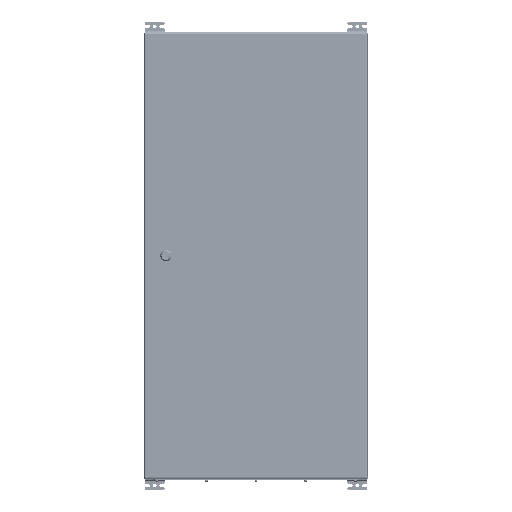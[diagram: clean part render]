
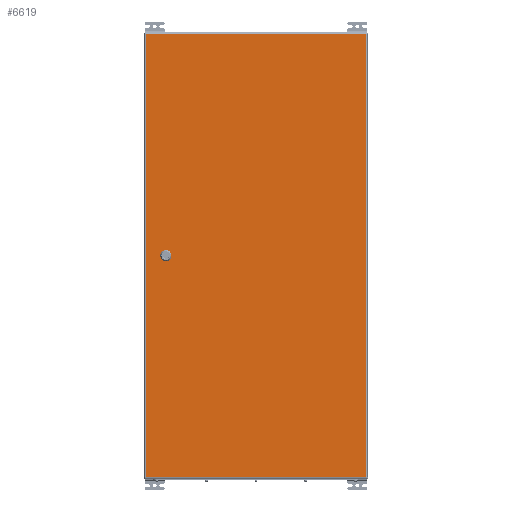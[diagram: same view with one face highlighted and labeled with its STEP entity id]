
A CAD part, top view. The second image highlights one B-rep face of the part: STEP entity #6619.
In plain terms, the highlighted planar face has unit normal (0, 0, 1).
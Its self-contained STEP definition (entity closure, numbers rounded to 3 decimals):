
#6619=ADVANCED_FACE('',(#15513,#15515),#15517,.T.);
#15513=FACE_BOUND('',#15514,.T.);
#15514=EDGE_LOOP('',(#41154,#41155,#41156,#41157));
#15515=FACE_BOUND('',#15516,.T.);
#15516=EDGE_LOOP('',(#41158,#41159,#41160,#41161,#41162,#41163,#41164,#41165));
#15517=PLANE('',#15518);
#15518=AXIS2_PLACEMENT_3D('',#15519,#15520,#15521);
#15519=CARTESIAN_POINT('',(0.,0.,1.5));
#15520=DIRECTION('',(0.,0.,1.));
#15521=DIRECTION('',(1.,0.,0.));
#41154=ORIENTED_EDGE('',*,*,#46165,.T.);
#41155=ORIENTED_EDGE('',*,*,#46166,.T.);
#41156=ORIENTED_EDGE('',*,*,#46094,.T.);
#41157=ORIENTED_EDGE('',*,*,#46167,.T.);
#41158=ORIENTED_EDGE('',*,*,#46168,.T.);
#41159=ORIENTED_EDGE('',*,*,#46169,.T.);
#41160=ORIENTED_EDGE('',*,*,#46170,.T.);
#41161=ORIENTED_EDGE('',*,*,#46171,.T.);
#41162=ORIENTED_EDGE('',*,*,#46172,.T.);
#41163=ORIENTED_EDGE('',*,*,#46173,.T.);
#41164=ORIENTED_EDGE('',*,*,#46174,.T.);
#41165=ORIENTED_EDGE('',*,*,#46175,.T.);
#46094=EDGE_CURVE('',#49941,#49939,#49942,.T.);
#46165=EDGE_CURVE('',#50066,#50067,#50068,.T.);
#46166=EDGE_CURVE('',#50067,#49941,#50069,.T.);
#46167=EDGE_CURVE('',#49939,#50066,#50070,.T.);
#46168=EDGE_CURVE('',#50071,#50072,#50073,.F.);
#46169=EDGE_CURVE('',#50072,#50074,#50075,.F.);
#46170=EDGE_CURVE('',#50074,#50076,#50077,.F.);
#46171=EDGE_CURVE('',#50076,#50078,#50079,.F.);
#46172=EDGE_CURVE('',#50078,#50080,#50081,.F.);
#46173=EDGE_CURVE('',#50080,#50082,#50083,.F.);
#46174=EDGE_CURVE('',#50082,#50084,#50085,.F.);
#46175=EDGE_CURVE('',#50084,#50071,#50086,.F.);
#49939=VERTEX_POINT('',#59335);
#49941=VERTEX_POINT('',#59340);
#49942=LINE('',#59341,#59342);
#50066=VERTEX_POINT('',#59630);
#50067=VERTEX_POINT('',#59631);
#50068=LINE('',#59632,#59633);
#50069=LINE('',#59635,#59636);
#50070=LINE('',#59638,#59639);
#50071=VERTEX_POINT('',#59641);
#50072=VERTEX_POINT('',#59642);
#50073=LINE('',#59643,#59644);
#50074=VERTEX_POINT('',#59646);
#50075=CIRCLE('',#59647,11.25);
#50076=VERTEX_POINT('',#59651);
#50077=LINE('',#59652,#59653);
#50078=VERTEX_POINT('',#59655);
#50079=CIRCLE('',#59656,11.25);
#50080=VERTEX_POINT('',#59660);
#50081=LINE('',#59661,#59662);
#50082=VERTEX_POINT('',#59664);
#50083=CIRCLE('',#59665,11.25);
#50084=VERTEX_POINT('',#59669);
#50085=LINE('',#59670,#59671);
#50086=CIRCLE('',#59673,11.25);
#59335=CARTESIAN_POINT('',(0.,0.,1.5));
#59340=CARTESIAN_POINT('',(0.,-592.,1.5));
#59341=CARTESIAN_POINT('',(0.,-592.,1.5));
#59342=VECTOR('',#59343,1.);
#59343=DIRECTION('',(0.,1.,0.));
#59630=CARTESIAN_POINT('',(-1189.,0.,1.5));
#59631=CARTESIAN_POINT('',(-1189.,-592.,1.5));
#59632=CARTESIAN_POINT('',(-1189.,0.,1.5));
#59633=VECTOR('',#59634,1.);
#59634=DIRECTION('',(0.,-1.,0.));
#59635=CARTESIAN_POINT('',(-1189.,-592.,1.5));
#59636=VECTOR('',#59637,1.);
#59637=DIRECTION('',(1.,0.,0.));
#59638=CARTESIAN_POINT('',(0.,0.,1.5));
#59639=VECTOR('',#59640,1.);
#59640=DIRECTION('',(-1.,0.,0.));
#59641=CARTESIAN_POINT('',(-589.545,-64.6,1.5));
#59642=CARTESIAN_POINT('',(-599.455,-64.6,1.5));
#59643=CARTESIAN_POINT('',(-599.455,-64.6,1.5));
#59644=VECTOR('',#59645,1.);
#59645=DIRECTION('',(1.,0.,0.));
#59646=CARTESIAN_POINT('',(-604.6,-59.455,1.5));
#59647=AXIS2_PLACEMENT_3D('',#59648,#59649,#59650);
#59648=CARTESIAN_POINT('',(-594.5,-54.5,1.5));
#59649=DIRECTION('',(0.,0.,1.));
#59650=DIRECTION('',(-0.898,-0.44,0.));
#59651=CARTESIAN_POINT('',(-604.6,-49.545,1.5));
#59652=CARTESIAN_POINT('',(-604.6,-49.545,1.5));
#59653=VECTOR('',#59654,1.);
#59654=DIRECTION('',(0.,-1.,0.));
#59655=CARTESIAN_POINT('',(-599.455,-44.4,1.5));
#59656=AXIS2_PLACEMENT_3D('',#59657,#59658,#59659);
#59657=CARTESIAN_POINT('',(-594.5,-54.5,1.5));
#59658=DIRECTION('',(0.,0.,1.));
#59659=DIRECTION('',(-0.44,0.898,0.));
#59660=CARTESIAN_POINT('',(-589.545,-44.4,1.5));
#59661=CARTESIAN_POINT('',(-589.545,-44.4,1.5));
#59662=VECTOR('',#59663,1.);
#59663=DIRECTION('',(-1.,0.,0.));
#59664=CARTESIAN_POINT('',(-584.4,-49.545,1.5));
#59665=AXIS2_PLACEMENT_3D('',#59666,#59667,#59668);
#59666=CARTESIAN_POINT('',(-594.5,-54.5,1.5));
#59667=DIRECTION('',(0.,0.,1.));
#59668=DIRECTION('',(0.898,0.44,0.));
#59669=CARTESIAN_POINT('',(-584.4,-59.455,1.5));
#59670=CARTESIAN_POINT('',(-584.4,-59.455,1.5));
#59671=VECTOR('',#59672,1.);
#59672=DIRECTION('',(0.,1.,0.));
#59673=AXIS2_PLACEMENT_3D('',#59674,#59675,#59676);
#59674=CARTESIAN_POINT('',(-594.5,-54.5,1.5));
#59675=DIRECTION('',(0.,0.,1.));
#59676=DIRECTION('',(0.44,-0.898,0.));
